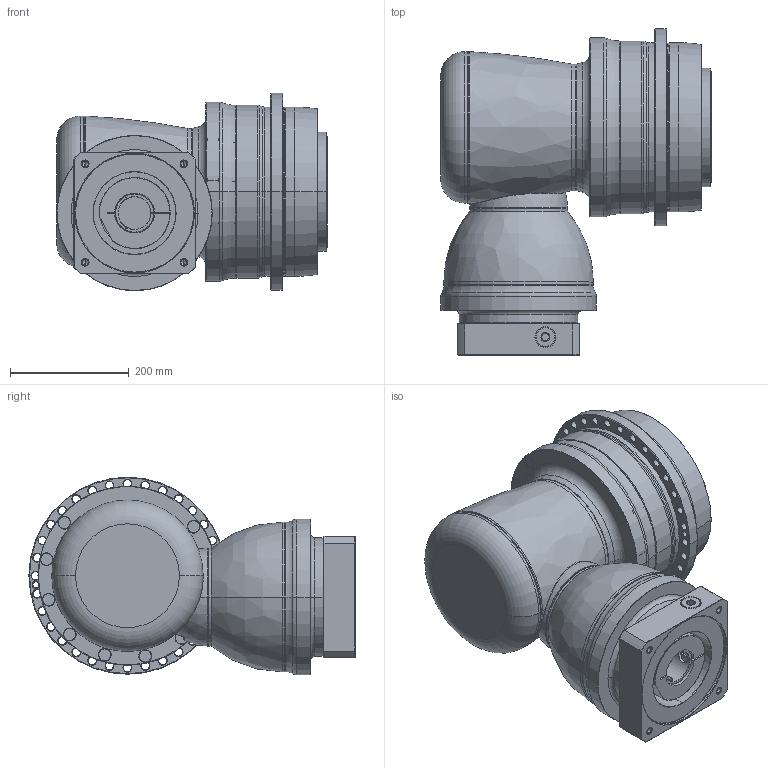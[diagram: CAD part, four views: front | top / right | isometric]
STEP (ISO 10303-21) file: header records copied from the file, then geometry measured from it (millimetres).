
FILE_DESCRIPTION((''),'2;1');
FILE_NAME('APK285_2ST_55-P0409C00201_ASM','2018-06-29T',('D00080'),(''),'PRO/ENGINEER BY PARAMETRIC TECHNOLOGY CORPORATION, 2008170','PRO/ENGINEER BY PARAMETRIC TECHNOLOGY CORPORATION, 2008170','');
FILE_SCHEMA(('CONFIG_CONTROL_DESIGN'));
Length unit declared in the file: millimetre
Products named in the file (13): P1008700002; P1802810001; P0278801003; P0359801103; P1211800001; P1315700001; P1007701001; P1318701401; P0503C00016; P0912704001; P0409C00201; 21711426021; APK285_2ST_55-P0409C00201_ASM
Assembly tree (12 placements, depth 2):
  APK285_2ST_55-P0409C00201_ASM
    P1008700002
    P1802810001
    P0278801003
    P0359801103
    P1211800001
    P1315700001
    P1007701001
    P1318701401
    P0503C00016
    P0912704001
    P0409C00201
    21711426021
Bounding box: 455.5 x 549.5 x 333 mm (x, y, z)
Volume: 35100037.6 mm3; surface area: 1985484.4 mm2
Topology: 13 solids, 36 shells, 906 faces, 2043 edges, 1236 vertices
Faces by surface type: cylinder 368, cone 272, plane 152, torus 84, bspline 28, sphere 2
Entity records: 33101 total; most frequent: CARTESIAN_POINT 11928, DIRECTION 4902, ORIENTED_EDGE 3920, AXIS2_PLACEMENT_3D 2097, EDGE_CURVE 2007, VERTEX_POINT 1236, CIRCLE 1182, EDGE_LOOP 1099
